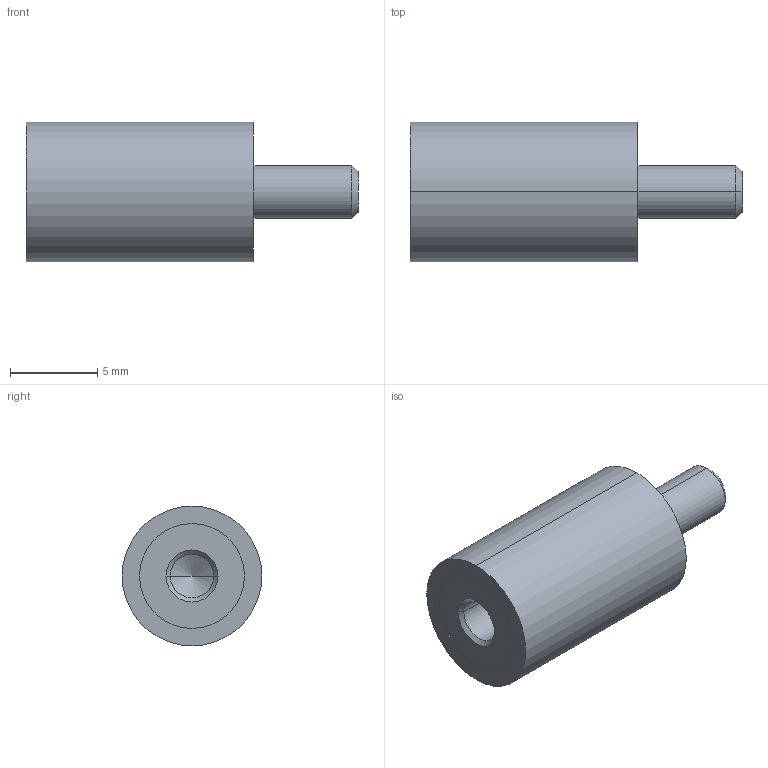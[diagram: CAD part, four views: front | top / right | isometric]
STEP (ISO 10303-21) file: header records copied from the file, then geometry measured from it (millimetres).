
FILE_DESCRIPTION (( 'STEP AP214' ), '1' );
FILE_NAME ('351-8-13-M3-ES-40.step', '2025-07-23T09:57:22', ( '' ), ( '' ), 'SwSTEP 2.0', 'SolidWorks 2022', '' );
FILE_SCHEMA (( 'AUTOMOTIVE_DESIGN' ));
Length unit declared in the file: millimetre
Products named in the file (1): 351-8-13-M3-ES-40
Bounding box: 19 x 8 x 8 mm (x, y, z)
Volume: 673.9 mm3; surface area: 513.2 mm2
Topology: 1 solids, 1 shells, 24 faces, 48 edges, 29 vertices
Faces by surface type: cylinder 12, cone 6, plane 6
Entity records: 740 total; most frequent: DIRECTION 124, CARTESIAN_POINT 100, ORIENTED_EDGE 92, AXIS2_PLACEMENT_3D 53, EDGE_CURVE 46, VERTEX_POINT 29, EDGE_LOOP 29, CIRCLE 28
